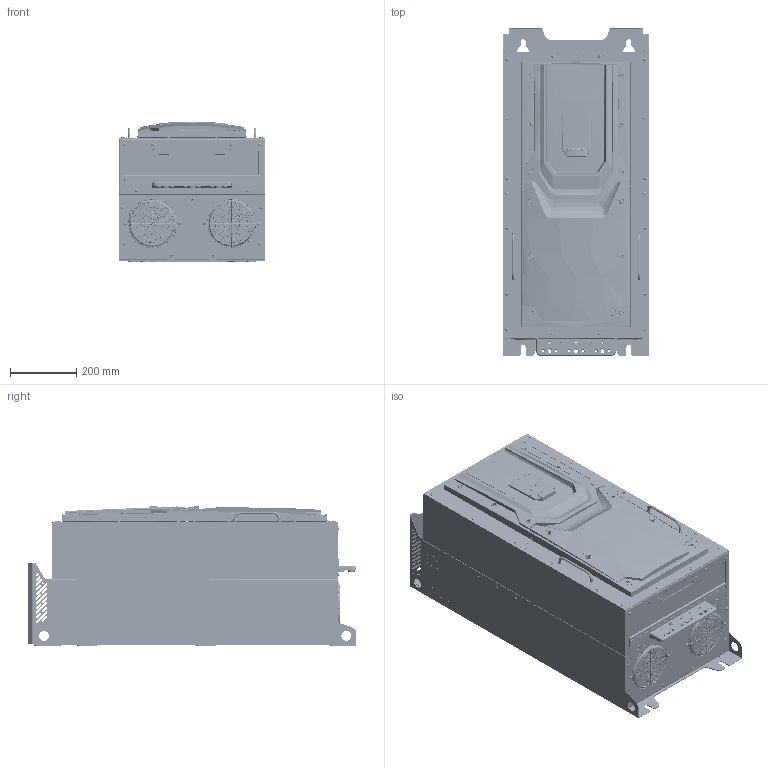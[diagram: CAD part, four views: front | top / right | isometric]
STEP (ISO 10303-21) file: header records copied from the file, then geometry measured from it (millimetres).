
FILE_DESCRIPTION (( 'STEP AP203' ), '1' );
FILE_NAME ('P2.IP55.SIZE8.TFT-withDripHood-Closed (ENVELOPE).STEP', '2022-03-16T10:52:38', ( '' ), ( '' ), 'SwSTEP 2.0', 'SolidWorks 2021', '' );
FILE_SCHEMA (( 'CONFIG_CONTROL_DESIGN' ));
Products named in the file (1): P2.IP55.SIZE8.TFT-withDripHood-Closed (ENVELOPE)
Bounding box: 444 x 992.94 x 422.81 mm (x, y, z)
Volume: 152741662.1 mm3; surface area: 2589054.4 mm2
Topology: 1 solids, 20 shells, 6943 faces, 18597 edges, 11792 vertices
Faces by surface type: plane 2651, cylinder 1924, bspline 962, torus 662, cone 570, sphere 174
Entity records: 320793 total; most frequent: CARTESIAN_POINT 161141, ORIENTED_EDGE 36840, DIRECTION 28715, EDGE_CURVE 18420, VERTEX_POINT 11792, AXIS2_PLACEMENT_3D 11272, EDGE_LOOP 7456, FACE_OUTER_BOUND 6943
